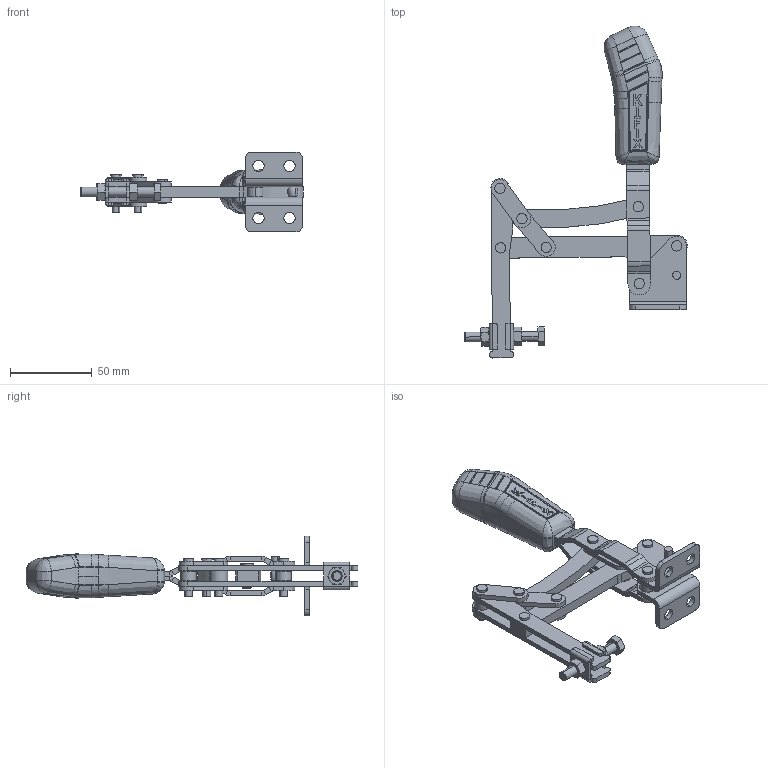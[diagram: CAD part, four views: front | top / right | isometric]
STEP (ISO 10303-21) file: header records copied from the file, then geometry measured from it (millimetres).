
FILE_DESCRIPTION (( 'STEP AP203' ), '1' );
FILE_NAME ('KF-017 DS A.STEP', '2014-09-05T12:29:28', ( 'Ricardo' ), ( '' ), 'SwSTEP 2.0', 'SolidWorks 2013', '' );
FILE_SCHEMA (( 'CONFIG_CONTROL_DESIGN' ));
Length unit declared in the file: millimetre
Products named in the file (17): 3670000127; 01.10005; 3670000104; 08.10097; 12.50002; 04.20001; 11.50001; 07.60001; 14.10004; 03.15036; KF-017 DS A; 02.12001_Direita; 08.10096; 02.12001_Esquerda; 15.10133; 05.20017; 20.10007
Assembly tree (31 placements, depth 2):
  KF-017 DS A
    02.12001_Direita
    02.12001_Esquerda
    05.20017  x2
    01.10005  x2
    08.10097  x2
    04.20001
    07.60001
    03.15036
    08.10096  x4
    15.10133
    20.10007  x2
    3670000127  x4
    3670000104  x4
    12.50002
    11.50001  x2
    14.10004  x2
Bounding box: 136.61 x 203.61 x 48.95 mm (x, y, z)
Volume: 101081 mm3; surface area: 57448 mm2
Topology: 31 solids, 31 shells, 822 faces, 1957 edges, 1220 vertices
Faces by surface type: plane 365, cylinder 280, bspline 126, cone 46, torus 5
Entity records: 23654 total; most frequent: CARTESIAN_POINT 8375, ORIENTED_EDGE 2964, DIRECTION 2326, EDGE_CURVE 1482, VERTEX_POINT 934, AXIS2_PLACEMENT_3D 847, EDGE_LOOP 678, VECTOR 632
